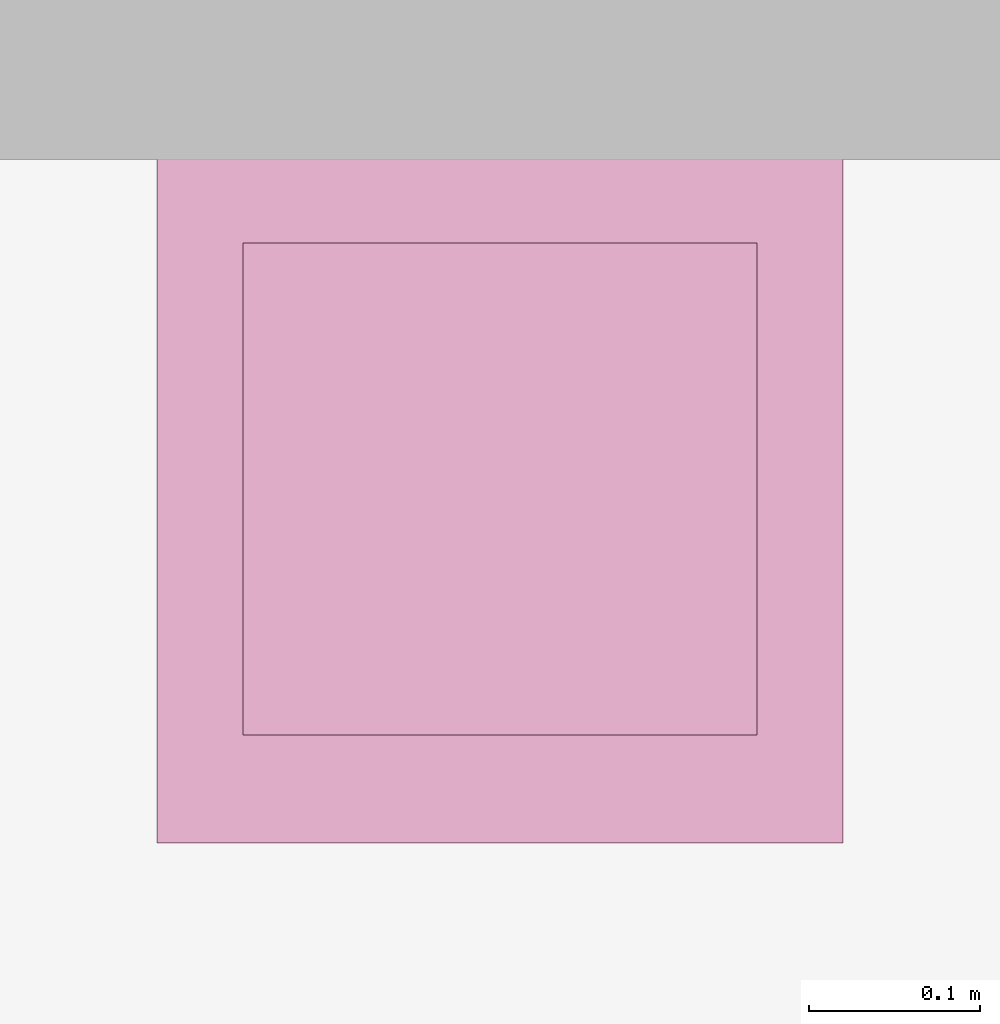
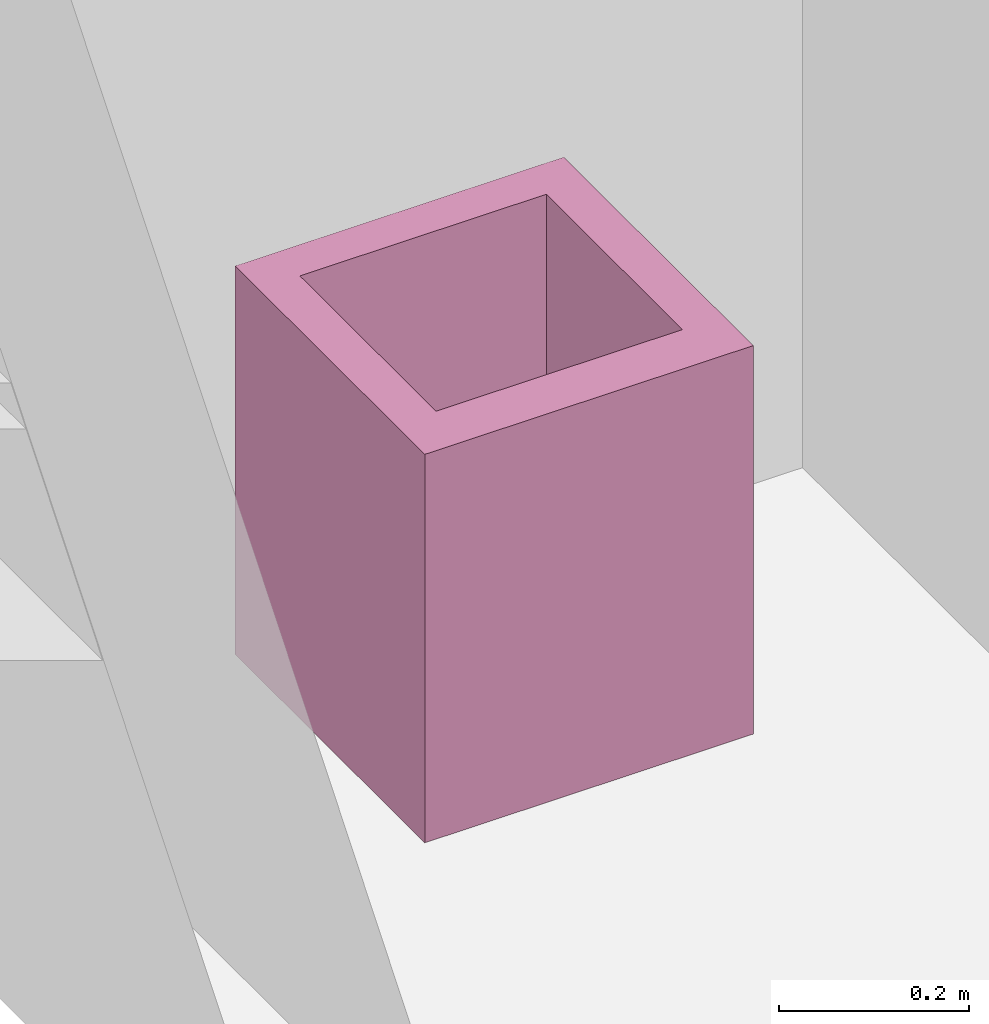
"""IFC4 building model written with IfcOpenShell, lengths in metres."""

from ifc_helpers import new_model, entity, si_unit, converted_unit, derived_unit, frame, origin, place, context, subcontext, project, spatial, faceted_brep, element, save


model = new_model("IFC4")

# Units and contexts
model_context = context("Model", 3, precision=1e-05, world=origin())
body_context = subcontext(model_context, "Body", "Model", "MODEL_VIEW")
ifc_project = project(units=[si_unit("LENGTHUNIT", "METRE"), si_unit("AREAUNIT", "SQUARE_METRE"), si_unit("VOLUMEUNIT", "CUBIC_METRE"), si_unit("MASSUNIT", "GRAM", prefix="KILO"), converted_unit("PLANEANGLEUNIT", "DEGREE", entity("IfcPlaneAngleMeasure", 0.0174532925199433), si_unit("PLANEANGLEUNIT", "RADIAN"), dimensions=[0, 0, 0, 0, 0, 0, 0]), derived_unit("THERMALTRANSMITTANCEUNIT", [(si_unit("POWERUNIT", "WATT"), 1), (si_unit("THERMODYNAMICTEMPERATUREUNIT", "KELVIN"), -1), (si_unit("LENGTHUNIT", "METRE"), -2)]), derived_unit("VOLUMETRICFLOWRATEUNIT", [(si_unit("LENGTHUNIT", "METRE"), 3), (converted_unit("TIMEUNIT", "hour", entity("IfcTimeMeasure", 3600.0), si_unit("TIMEUNIT", "SECOND"), dimensions=[0, 0, 1, 0, 0, 0, 0]), -1), (si_unit("LENGTHUNIT", "METRE"), -1)])], contexts=[model_context])

# Building, storeys
building_placement = place(None, origin())
building = spatial("IfcBuilding", under=ifc_project, at=building_placement, Name="HABITATGE PLURIFAMILIAR", CompositionType="ELEMENT")
storey_1_placement = place(building_placement, frame((0.0, 0.0, 12.27)))
storey_1 = spatial("IfcBuildingStorey", under=building, at=storey_1_placement, Name="PLANTA TERCERA", CompositionType="ELEMENT", Elevation=12.27)
storey_2_placement = place(storey_1_placement, frame((0.0, 0.0, 9.26)))
storey_2 = spatial("IfcBuildingStorey", under=storey_1, at=storey_2_placement, Name="NOU", CompositionType="PARTIAL")

# Furniture
furniture_placement = place(storey_2_placement, frame((416.236937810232, 27.300783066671, -9.26)))
element("IfcFurniture", 1, at=furniture_placement, inside=storey_2, Name="Abocador P3", context=body_context, shape_type="Brep", body=[
    faceted_brep([(0.05, 0.0628648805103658, 0.5), (0.05, 0.35, 0.5), (0.05, 0.35, 0.2), (0.05, 0.0628648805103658, 0.2), (0.35, 0.0628648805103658, 0.5), (0.35, 0.0628648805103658, 0.2), (0.35, 0.35, 0.5), (0.35, 0.35, 0.2), (0.4, 0.4, 0.0), (0.0, 0.4, 0.0), (0.0, 0.0, 0.0), (0.4, 0.0, 0.0), (0.4, 0.4, 0.5), (0.0, 0.4, 0.5), (0.4, 0.0, 0.5), (0.0, 0.0, 0.5)], [[[0, 1, 2, 3]], [[4, 0, 3, 5]], [[1, 6, 7, 2]], [[7, 5, 3, 2]], [[6, 4, 5, 7]], [[8, 9, 10, 11]], [[9, 8, 12, 13]], [[8, 11, 14, 12]], [[11, 10, 15, 14]], [[10, 9, 13, 15]], [[13, 12, 14, 15], [1, 0, 4, 6]]], orient=[[False], [False], [False], [False], [False], [False], [False], [False], [False], [False], [False, False]]),
])

save(model, "model.ifc")
